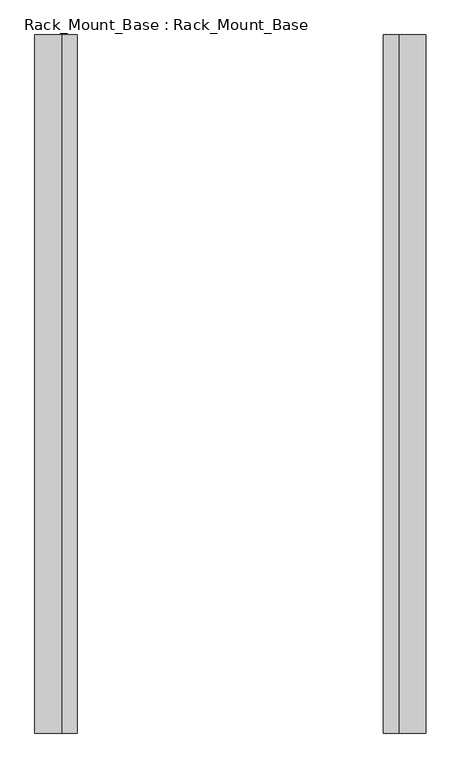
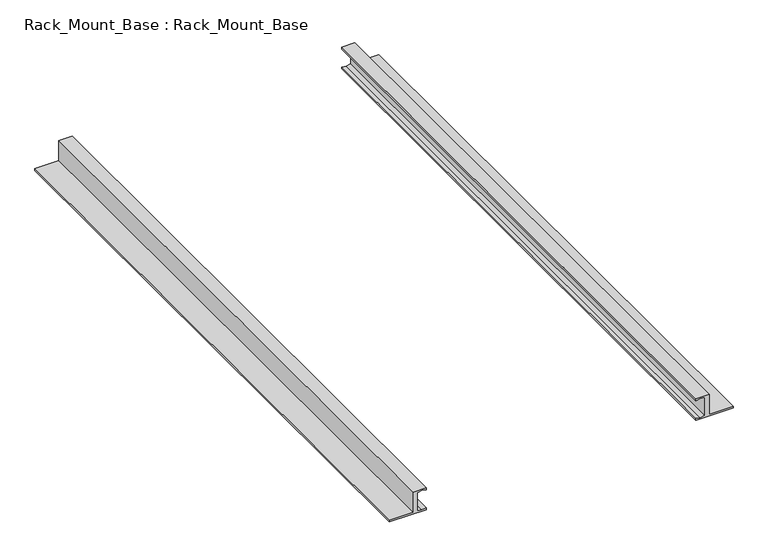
"""IFC4 building model written with IfcOpenShell, lengths in millimetres: proxy geometry, Rack_Mount_Base : Rack_Mount_Base."""

import ifcopenshell
import ifcopenshell.guid

model = None  # the IFC model being written
_history = None  # IfcOwnerHistory: only IFC2X3 demands one
_inside = {}  # id of a spatial element -> (the spatial element, [elements in it])
_under = {}  # id of a project, library or spatial element -> (it, [spatial elements below it])
_declared = {}  # id of a project -> (the project, [libraries it declares])
_typed = {}  # id of a type object -> (the type object, [elements of that type])
_made_of = {}  # id of a material, layer set ... -> (it, [elements and type objects made of it])


def new_model(schema):
    """Start an empty IFC model of exactly this schema.

    Asked for "IFC4X3", IfcOpenShell would pick the latest addendum, in which some entities
    have other attributes; the version numbers below select the first issue.
    IFC2X3 requires an IfcOwnerHistory on every rooted entity: one is made here for all.
    """
    global model, _history
    if schema == "IFC4X3":
        model = ifcopenshell.file(schema_version=(4, 3, 0, 0))
    else:
        model = ifcopenshell.file(schema=schema)
    _inside.clear()
    _under.clear()
    _declared.clear()
    _typed.clear()
    _made_of.clear()
    _history = None
    if model.schema == "IFC2X3":
        org = make("IfcOrganization", Name="unknown")
        user = make(
            "IfcPersonAndOrganization",
            ThePerson=make("IfcPerson", FamilyName="unknown"),
            TheOrganization=org,
        )
        app = make(
            "IfcApplication",
            ApplicationDeveloper=org,
            Version="unknown",
            ApplicationFullName="unknown",
            ApplicationIdentifier="unknown",
        )
        _history = make(
            "IfcOwnerHistory",
            OwningUser=user,
            OwningApplication=app,
            ChangeAction="ADDED",
            CreationDate=0,
        )
    return model


def make(cls, **values):
    """One entity of the class cls with the attributes given. An attribute that is None is left unset."""
    return model.create_entity(
        cls, **{name: value for name, value in values.items() if value is not None}
    )


def rooted(cls, **values):
    """An entity with a GlobalId (a new one), such as an element, a storey or a relation."""
    return make(cls, GlobalId=ifcopenshell.guid.new(), OwnerHistory=_history, **values)


def si_unit(unit_type, name, prefix=None):
    """IfcSIUnit, for example si_unit("LENGTHUNIT", "METRE", prefix="MILLI")."""
    return make("IfcSIUnit", UnitType=unit_type, Prefix=prefix, Name=name)


def assignment(units):
    """IfcUnitAssignment: the units of a project."""
    return None if units is None else make("IfcUnitAssignment", Units=units)


def point(xyz):
    """IfcCartesianPoint."""
    return None if xyz is None else make("IfcCartesianPoint", Coordinates=xyz)


def direction(xyz):
    """IfcDirection."""
    return None if xyz is None else make("IfcDirection", DirectionRatios=xyz)


def frame(location, z_axis=None, x_axis=None):
    """IfcAxis2Placement3D, a coordinate frame: its origin and axes. An axis left out is left unset."""
    return make(
        "IfcAxis2Placement3D",
        Location=point(location),
        Axis=direction(z_axis),
        RefDirection=direction(x_axis),
    )


def origin():
    """The frame at (0, 0, 0) with its axes left unset."""
    return frame((0.0, 0.0, 0.0))


def place(relative_to, where):
    """IfcLocalPlacement: puts the frame where relative to a parent placement (None: the world)."""
    return make(
        "IfcLocalPlacement", PlacementRelTo=relative_to, RelativePlacement=where
    )


def context(
    kind, dimensions, precision=None, world=None, true_north=None, identifier=None
):
    """IfcGeometricRepresentationContext, for example the 3D "Model" context."""
    return make(
        "IfcGeometricRepresentationContext",
        ContextIdentifier=identifier,
        ContextType=kind,
        CoordinateSpaceDimension=dimensions,
        Precision=precision,
        WorldCoordinateSystem=world,
        TrueNorth=true_north,
    )


def project(units=None, contexts=None):
    """IfcProject with its units and contexts."""
    return rooted(
        "IfcProject",
        Name="project",
        RepresentationContexts=contexts,
        UnitsInContext=assignment(units),
    )


def spatial(cls, under=None, at=None, **own):
    """A site, building, storey or space (cls), placed at a placement, below another one or the project."""
    s = rooted(cls, ObjectPlacement=at, **own)
    if under is not None:
        _under.setdefault(under.id(), (under, []))[1].append(s)
    return s


def polyline(points):
    """IfcPolyline through the points."""
    return make("IfcPolyline", Points=[point(p) for p in points])


def outline(outer, holes=None, kind="AREA"):
    """IfcArbitraryClosedProfileDef: a profile drawn as a closed curve; with holes, ...WithVoids."""
    if holes is None:
        return make("IfcArbitraryClosedProfileDef", ProfileType=kind, OuterCurve=outer)
    return make(
        "IfcArbitraryProfileDefWithVoids",
        ProfileType=kind,
        OuterCurve=outer,
        InnerCurves=holes,
    )


def extrude(swept, where, along, depth):
    """IfcExtrudedAreaSolid: the profile swept, set in the frame where, extruded along a direction by depth."""
    return make(
        "IfcExtrudedAreaSolid",
        SweptArea=swept,
        Position=where,
        ExtrudedDirection=direction(along),
        Depth=depth,
    )


def shape(context_of_items, identifier, shape_type, items):
    """IfcShapeRepresentation: the items that make up one representation, for example the "Body"."""
    return make(
        "IfcShapeRepresentation",
        ContextOfItems=context_of_items,
        RepresentationIdentifier=identifier,
        RepresentationType=shape_type,
        Items=items,
    )


def source(mapping_origin, context_of_items, identifier, shape_type, items):
    """IfcRepresentationMap: a shape defined once, which mapped items show again and again."""
    return make(
        "IfcRepresentationMap",
        MappingOrigin=mapping_origin,
        MappedRepresentation=shape(context_of_items, identifier, shape_type, items),
    )


def transform(
    local_origin,
    x_axis=None,
    y_axis=None,
    z_axis=None,
    scale=None,
    scale2=None,
    scale3=None,
    uniform=True,
):
    """IfcCartesianTransformationOperator3D, or its non-uniform kind. x_axis, y_axis, z_axis: its Axis1, 2, 3."""
    if uniform:
        return make(
            "IfcCartesianTransformationOperator3D",
            Axis1=direction(x_axis),
            Axis2=direction(y_axis),
            LocalOrigin=point(local_origin),
            Scale=scale,
            Axis3=direction(z_axis),
        )
    return make(
        "IfcCartesianTransformationOperator3DnonUniform",
        Axis1=direction(x_axis),
        Axis2=direction(y_axis),
        LocalOrigin=point(local_origin),
        Scale=scale,
        Axis3=direction(z_axis),
        Scale2=scale2,
        Scale3=scale3,
    )


def mapped(mapping_source, mapping_target):
    """IfcMappedItem: shows the shape of a source again, moved by a transform."""
    return make(
        "IfcMappedItem", MappingSource=mapping_source, MappingTarget=mapping_target
    )


def made_of(thing, what):
    """Note that an element or type object is made of a material, layer set ...; save() writes the relation."""
    if what is not None:
        _made_of.setdefault(what.id(), (what, []))[1].append(thing)
    return thing


def element(
    cls,
    number,
    at=None,
    inside=None,
    cuts=None,
    type_object=None,
    material=None,
    context=None,
    identifier="Body",
    shape_type=None,
    held_by="IfcProductDefinitionShape",
    body=None,
    shapes=None,
    **own,
):
    """One element of the class cls, such as IfcWall. Its Tag is "e" and its number.

    at: its placement. inside: the storey or other place that contains it. cuts: it is an
    opening in that element (IfcRelVoidsElement). A single representation is given by context,
    identifier, shape_type and body (its items); several are given by shapes. held_by: the class
    of the entity that holds the representations. save() writes the other relations.
    """
    e = rooted(cls, Tag="e%d" % number, ObjectPlacement=at, **own)
    if body is not None:
        shapes = [shape(context, identifier, shape_type, body)]
    if shapes is not None:
        e.Representation = make(held_by, Representations=shapes)
    if inside is not None:
        _inside.setdefault(inside.id(), (inside, []))[1].append(e)
    if cuts is not None:
        rooted(
            "IfcRelVoidsElement", RelatingBuildingElement=cuts, RelatedOpeningElement=e
        )
    if type_object is not None:
        _typed.setdefault(type_object.id(), (type_object, []))[1].append(e)
    return made_of(e, material)


def aggregate(whole, parts):
    """IfcRelAggregates: a whole, such as a stair, and the parts it consists of."""
    return rooted("IfcRelAggregates", RelatingObject=whole, RelatedObjects=parts)


def save(model, path):
    """Write the relations noted so far, then the file.

    IfcRelAggregates (storeys below a building ...), IfcRelContainedInSpatialStructure (elements
    in a storey), IfcRelDefinesByType, IfcRelAssociatesMaterial and IfcRelDeclares: one each for
    every whole, place, type object, material and project.
    """
    for whole, parts in _under.values():
        aggregate(whole, parts)
    for where, things in _inside.values():
        rooted(
            "IfcRelContainedInSpatialStructure",
            RelatedElements=things,
            RelatingStructure=where,
        )
    for kind, things in _typed.values():
        rooted("IfcRelDefinesByType", RelatedObjects=things, RelatingType=kind)
    for what, things in _made_of.values():
        rooted("IfcRelAssociatesMaterial", RelatedObjects=things, RelatingMaterial=what)
    for by, libraries in _declared.values():
        rooted("IfcRelDeclares", RelatingContext=by, RelatedDefinitions=libraries)
    model.write(path)


def rack_mount_base_rack_mount_base_3f2ea301(model_context):
    return source(origin(), model_context, "Body", "SweptSolid", [
        extrude(outline(polyline([(0.0, 0.0), (0.0, 65.0), (3.53644, 65.0), (2.0364404, 57.0000005), (3.5364397, 48.9999982), (36.4977283, 48.9999982), (37.9977287, 57.0000005), (36.4977283, 64.9999982), (39.9999999, 64.9999982), (39.9999999, 41.9999985), (2.9999995, 41.9999985), (2.9999995, 0.0), (0.0, 0.0)])), frame((0.0, -1070.0, 0.0), z_axis=(0.0, 1.0, 0.0), x_axis=(0.0, 0.0, 1.0)), (0.0, 0.0, 1.0), 1070.0),
        extrude(outline(polyline([(0.0, 600.0), (2.9999995, 600.0), (2.9999995, 558.0000015), (39.9999999, 558.0000015), (39.9999999, 535.0000018), (36.4977283, 535.0000018), (37.9977287, 542.9999995), (36.4977283, 551.0000018), (3.5364397, 551.0000018), (2.0364404, 542.9999995), (3.53644, 535.0), (0.0, 535.0), (0.0, 600.0)])), frame((0.0, -1070.0, 0.0), z_axis=(0.0, 1.0, 0.0), x_axis=(0.0, 0.0, 1.0)), (0.0, 0.0, 1.0), 1070.0),
    ])


if __name__ == "__main__":
    model = new_model("IFC4")
    model_context = context("Model", 3, world=origin())
    ifc_project = project(units=[si_unit("LENGTHUNIT", "METRE", prefix="MILLI")], contexts=[model_context])
    site = spatial("IfcSite", under=ifc_project)
    building = spatial("IfcBuilding", under=site)
    placement = place(None, origin())
    rack_mount_base_rack_mount_base_shape = rack_mount_base_rack_mount_base_3f2ea301(model_context)
    element("IfcBuildingElementProxy", 1, Name="Rack_Mount_Base : Rack_Mount_Base", ObjectType="Rack_Mount_Base : Rack_Mount_Base", at=placement, inside=building, context=model_context, shape_type="MappedRepresentation", body=[
        mapped(rack_mount_base_rack_mount_base_shape, transform((0.0, 0.0, 0.0), x_axis=(1.0, 0.0, 0.0), y_axis=(0.0, 1.0, 0.0), z_axis=(0.0, 0.0, 1.0))),
    ])
    save(model, "model.ifc")
